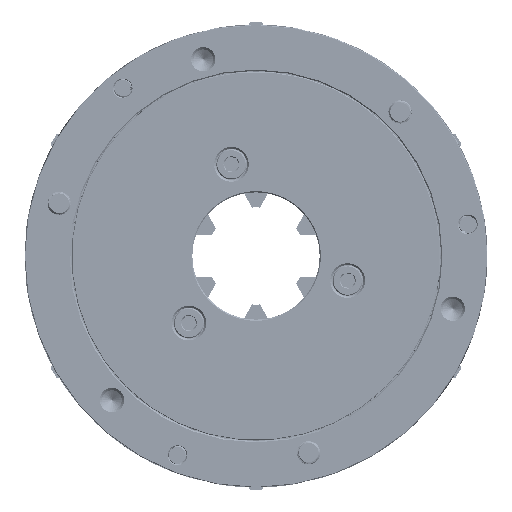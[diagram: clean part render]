
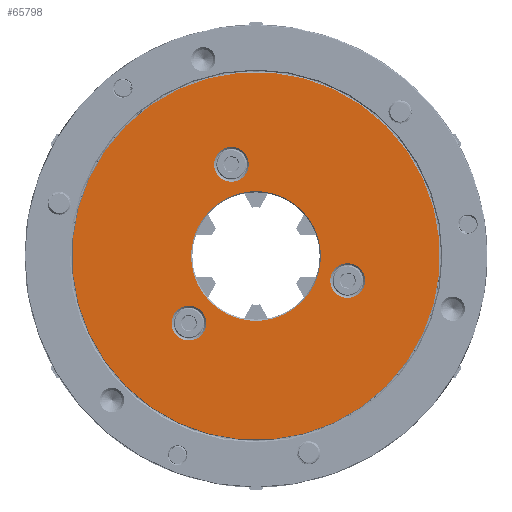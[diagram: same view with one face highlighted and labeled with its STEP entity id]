
A CAD part, front view. The second image highlights one B-rep face of the part: STEP entity #65798.
In plain terms, the highlighted planar face has unit normal (0, -1, 0) as drawn and (-1, 0, 0) by its records, which use the part's own axes.
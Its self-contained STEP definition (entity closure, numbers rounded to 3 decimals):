
#2879 = AXIS2_PLACEMENT_3D ( 'NONE', #136728, #159536, #39452 ) ;
#3767 = EDGE_LOOP ( 'NONE', ( #88246, #69331 ) ) ;
#3887 = ORIENTED_EDGE ( 'NONE', *, *, #60326, .F. ) ;
#4073 = FACE_BOUND ( 'NONE', #12139, .T. ) ;
#5185 = EDGE_CURVE ( 'NONE', #50282, #122557, #120624, .T. ) ;
#10490 = ORIENTED_EDGE ( 'NONE', *, *, #136236, .F. ) ;
#11598 = CARTESIAN_POINT ( 'NONE',  ( 3., -35.507, -20.5 ) ) ;
#12139 = EDGE_LOOP ( 'NONE', ( #10490, #169058 ) ) ;
#12341 = EDGE_LOOP ( 'NONE', ( #3887, #15864 ) ) ;
#15864 = ORIENTED_EDGE ( 'NONE', *, *, #173061, .F. ) ;
#17558 = DIRECTION ( 'NONE',  ( -1., 0., 0. ) ) ;
#18538 = CIRCLE ( 'NONE', #40916, 79.5 ) ;
#18812 = DIRECTION ( 'NONE',  ( -1., 0., 0. ) ) ;
#20554 = VERTEX_POINT ( 'NONE', #52453 ) ;
#21616 = DIRECTION ( 'NONE',  ( -1., 0., 0. ) ) ;
#25739 = CARTESIAN_POINT ( 'NONE',  ( 3., -35.507, -28. ) ) ;
#28795 = CIRCLE ( 'NONE', #143543, 7.5 ) ;
#30420 = FACE_BOUND ( 'NONE', #12341, .T. ) ;
#30731 = EDGE_LOOP ( 'NONE', ( #68302, #145965 ) ) ;
#30960 = VERTEX_POINT ( 'NONE', #34336 ) ;
#32245 = EDGE_CURVE ( 'NONE', #122557, #50282, #92929, .T. ) ;
#34336 = CARTESIAN_POINT ( 'NONE',  ( 3., 0., 79.5 ) ) ;
#34652 = EDGE_CURVE ( 'NONE', #140897, #34872, #75697, .T. ) ;
#34872 = VERTEX_POINT ( 'NONE', #109609 ) ;
#39452 = DIRECTION ( 'NONE',  ( 0., 0., 1. ) ) ;
#39671 = AXIS2_PLACEMENT_3D ( 'NONE', #165652, #17558, #122815 ) ;
#40916 = AXIS2_PLACEMENT_3D ( 'NONE', #44378, #139044, #74187 ) ;
#44378 = CARTESIAN_POINT ( 'NONE',  ( 3., 0., 0. ) ) ;
#44761 = AXIS2_PLACEMENT_3D ( 'NONE', #64071, #169249, #140412 ) ;
#45347 = CARTESIAN_POINT ( 'NONE',  ( 3., 0., 0. ) ) ;
#45394 = CARTESIAN_POINT ( 'NONE',  ( 3., 0., 33.5 ) ) ;
#50282 = VERTEX_POINT ( 'NONE', #45394 ) ;
#51294 = DIRECTION ( 'NONE',  ( 0., 0., -1. ) ) ;
#52453 = CARTESIAN_POINT ( 'NONE',  ( 3., 0., 28. ) ) ;
#52750 = DIRECTION ( 'NONE',  ( 0., 0., -1. ) ) ;
#55065 = VERTEX_POINT ( 'NONE', #25739 ) ;
#60326 = EDGE_CURVE ( 'NONE', #112237, #55065, #28795, .T. ) ;
#61096 = DIRECTION ( 'NONE',  ( 0., 0., -1. ) ) ;
#64071 = CARTESIAN_POINT ( 'NONE',  ( 3., 35.507, -20.5 ) ) ;
#65798 = ADVANCED_FACE ( 'NONE', ( #97118, #150523, #30420, #4073, #160640 ), #80025, .F. ) ;
#68302 = ORIENTED_EDGE ( 'NONE', *, *, #158794, .T. ) ;
#69331 = ORIENTED_EDGE ( 'NONE', *, *, #5185, .F. ) ;
#70030 = CIRCLE ( 'NONE', #2879, 7.5 ) ;
#71344 = AXIS2_PLACEMENT_3D ( 'NONE', #120363, #159766, #104689 ) ;
#71941 = VERTEX_POINT ( 'NONE', #92455 ) ;
#74187 = DIRECTION ( 'NONE',  ( 0., 0., -1. ) ) ;
#75697 = CIRCLE ( 'NONE', #44761, 7.5 ) ;
#80025 = PLANE ( 'NONE',  #71344 ) ;
#80263 = EDGE_LOOP ( 'NONE', ( #137489, #96936 ) ) ;
#82513 = CIRCLE ( 'NONE', #146915, 28. ) ;
#84954 = AXIS2_PLACEMENT_3D ( 'NONE', #131079, #117954, #51294 ) ;
#87114 = AXIS2_PLACEMENT_3D ( 'NONE', #88067, #18812, #164318 ) ;
#88067 = CARTESIAN_POINT ( 'NONE',  ( 3., 0., 41. ) ) ;
#88246 = ORIENTED_EDGE ( 'NONE', *, *, #32245, .F. ) ;
#88340 = EDGE_CURVE ( 'NONE', #30960, #92182, #92654, .T. ) ;
#92182 = VERTEX_POINT ( 'NONE', #130100 ) ;
#92455 = CARTESIAN_POINT ( 'NONE',  ( 3., 0., -28. ) ) ;
#92654 = CIRCLE ( 'NONE', #117804, 79.5 ) ;
#92929 = CIRCLE ( 'NONE', #39671, 7.5 ) ;
#96936 = ORIENTED_EDGE ( 'NONE', *, *, #144602, .T. ) ;
#97118 = FACE_BOUND ( 'NONE', #80263, .T. ) ;
#104689 = DIRECTION ( 'NONE',  ( 0., 0., -1. ) ) ;
#109262 = CARTESIAN_POINT ( 'NONE',  ( 3., 35.507, -20.5 ) ) ;
#109609 = CARTESIAN_POINT ( 'NONE',  ( 3., 35.507, -13. ) ) ;
#112237 = VERTEX_POINT ( 'NONE', #159284 ) ;
#117400 = AXIS2_PLACEMENT_3D ( 'NONE', #109262, #137250, #124126 ) ;
#117804 = AXIS2_PLACEMENT_3D ( 'NONE', #45347, #21616, #61096 ) ;
#117954 = DIRECTION ( 'NONE',  ( 1., 0., 0. ) ) ;
#118584 = DIRECTION ( 'NONE',  ( -1., 0., 0. ) ) ;
#120363 = CARTESIAN_POINT ( 'NONE',  ( 3., 79.75, 0. ) ) ;
#120624 = CIRCLE ( 'NONE', #87114, 7.5 ) ;
#122557 = VERTEX_POINT ( 'NONE', #131170 ) ;
#122815 = DIRECTION ( 'NONE',  ( 0., 0., 1. ) ) ;
#124126 = DIRECTION ( 'NONE',  ( 0., 0., 1. ) ) ;
#128975 = EDGE_CURVE ( 'NONE', #20554, #71941, #82513, .T. ) ;
#130100 = CARTESIAN_POINT ( 'NONE',  ( 3., 0., -79.5 ) ) ;
#131079 = CARTESIAN_POINT ( 'NONE',  ( 3., 0., 0. ) ) ;
#131170 = CARTESIAN_POINT ( 'NONE',  ( 3., 0., 48.5 ) ) ;
#131690 = CARTESIAN_POINT ( 'NONE',  ( 3., 0., 0. ) ) ;
#135239 = CIRCLE ( 'NONE', #84954, 28. ) ;
#136236 = EDGE_CURVE ( 'NONE', #34872, #140897, #173395, .T. ) ;
#136728 = CARTESIAN_POINT ( 'NONE',  ( 3., -35.507, -20.5 ) ) ;
#137250 = DIRECTION ( 'NONE',  ( -1., 0., 0. ) ) ;
#137489 = ORIENTED_EDGE ( 'NONE', *, *, #128975, .T. ) ;
#139044 = DIRECTION ( 'NONE',  ( -1., 0., 0. ) ) ;
#140412 = DIRECTION ( 'NONE',  ( 0., 0., 1. ) ) ;
#140897 = VERTEX_POINT ( 'NONE', #169582 ) ;
#143543 = AXIS2_PLACEMENT_3D ( 'NONE', #11598, #118584, #171989 ) ;
#144602 = EDGE_CURVE ( 'NONE', #71941, #20554, #135239, .T. ) ;
#145965 = ORIENTED_EDGE ( 'NONE', *, *, #88340, .T. ) ;
#146915 = AXIS2_PLACEMENT_3D ( 'NONE', #131690, #157962, #52750 ) ;
#150523 = FACE_OUTER_BOUND ( 'NONE', #30731, .T. ) ;
#157962 = DIRECTION ( 'NONE',  ( 1., 0., 0. ) ) ;
#158794 = EDGE_CURVE ( 'NONE', #92182, #30960, #18538, .T. ) ;
#159284 = CARTESIAN_POINT ( 'NONE',  ( 3., -35.507, -13. ) ) ;
#159536 = DIRECTION ( 'NONE',  ( -1., 0., 0. ) ) ;
#159766 = DIRECTION ( 'NONE',  ( 1., 0., 0. ) ) ;
#160640 = FACE_BOUND ( 'NONE', #3767, .T. ) ;
#164318 = DIRECTION ( 'NONE',  ( 0., 0., 1. ) ) ;
#165652 = CARTESIAN_POINT ( 'NONE',  ( 3., 0., 41. ) ) ;
#169058 = ORIENTED_EDGE ( 'NONE', *, *, #34652, .F. ) ;
#169249 = DIRECTION ( 'NONE',  ( -1., 0., 0. ) ) ;
#169582 = CARTESIAN_POINT ( 'NONE',  ( 3., 35.507, -28. ) ) ;
#171989 = DIRECTION ( 'NONE',  ( 0., 0., 1. ) ) ;
#173061 = EDGE_CURVE ( 'NONE', #55065, #112237, #70030, .T. ) ;
#173395 = CIRCLE ( 'NONE', #117400, 7.5 ) ;
